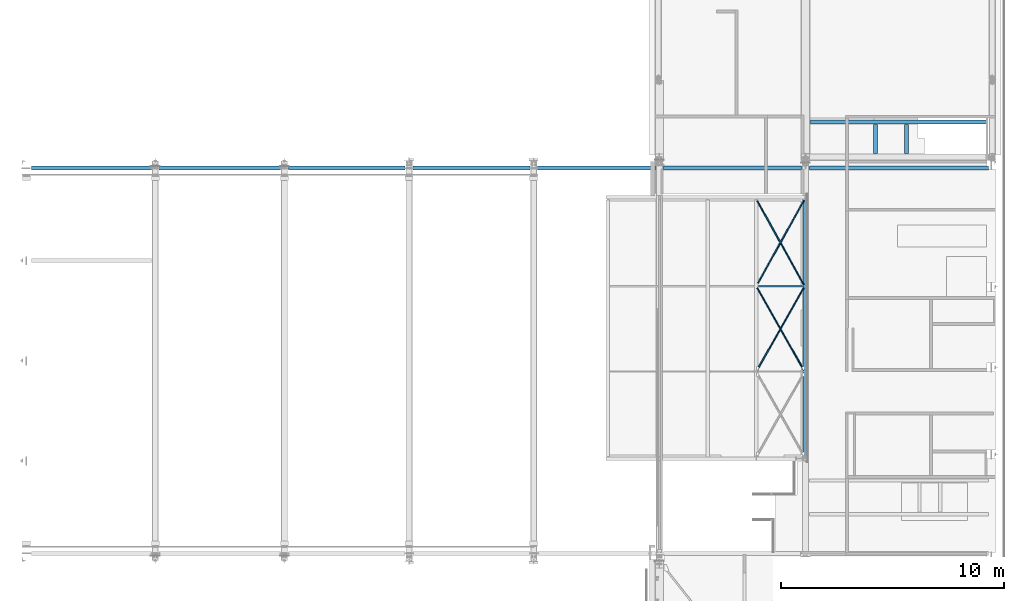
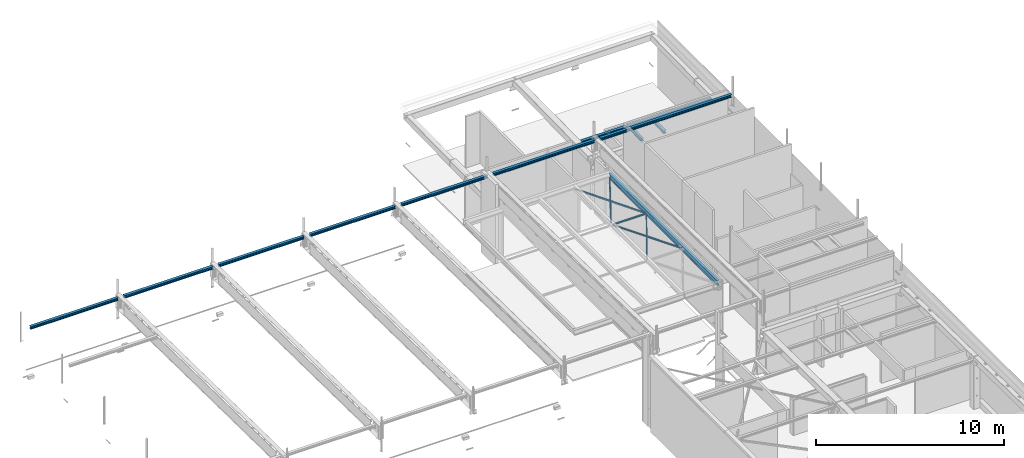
# One storey, part 7 of 186: 16 beams.
"""IFC4X3_ADD2 building model written with IfcOpenShell, lengths in millimetres."""

from ifc_helpers import new_model, si_unit, point, direction, frame, frame_2d, origin_with_axes, place, context, subcontext, project, spatial, polyline, circle_curve, trimmed, segment, composite_curve, i_section, l_section, outline, extrude, boolean, material, type_object, element, save


model = new_model("IFC4X3_ADD2")

# Units and contexts
model_context = context("Model", 3, precision=1e-05, world=origin_with_axes(), true_north=direction((0.0, 1.0)))
body_context = subcontext(model_context, "Body", "Model", "MODEL_VIEW")
ifc_project = project(units=[si_unit("LENGTHUNIT", "METRE", prefix="MILLI"), si_unit("AREAUNIT", "SQUARE_METRE"), si_unit("VOLUMEUNIT", "CUBIC_METRE"), si_unit("PLANEANGLEUNIT", "RADIAN"), si_unit("TIMEUNIT", "SECOND"), si_unit("MASSUNIT", "GRAM")], contexts=[model_context])

# Site, building, storey
site_placement = place(None, origin_with_axes())
site = spatial("IfcSite", under=ifc_project, at=site_placement, Name="Site", CompositionType="ELEMENT")
building_placement = place(site_placement, origin_with_axes())
building = spatial("IfcBuilding", under=site, at=building_placement, Name="IFC Building Story")
storey_placement = place(building_placement, frame((0.0, 0.0, 4370.0), z_axis=(0.0, 0.0, 1.0), x_axis=(1.0, 0.0, 0.0)))
storey = spatial("IfcBuildingStorey", under=building, at=storey_placement, Name="ETAGE 10 (1)", Elevation=4370.0)

# Beams
ifc_material = material(Name="BS_28_Métal")
beam_type = type_object("IfcBeamType", Name="L60x4", PredefinedType="NOTDEFINED")
beam_1_placement = place(storey_placement, frame((39881.19937621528, 12430.02188791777, 3109.999999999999), z_axis=(-0.4847265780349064, 0.8746657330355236, 0.0), x_axis=(0.0, 0.0, -1.0)))
element("IfcBeam", 1, at=beam_1_placement, inside=storey, type_object=beam_type, material=ifc_material, Name="BS_28_SF_LE_Cornière à ailes égales:L60x4", ObjectType="L60x4", context=body_context, shape_type="CSG", body=[
    boolean("UNION", boolean("DIFFERENCE", extrude(l_section(Depth=60.0, Width=60.00000000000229, Thickness=3.999999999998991, FilletRadius=8.00000000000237, EdgeRadius=3.00000000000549, LegSlope=0.0, at=frame_2d((0.0, 5.95523630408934e-12), x_axis=(1.0, 0.0))), origin_with_axes(), (0.0, 0.0, 1.0), 4291.120293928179), extrude(outline(composite_curve([segment(trimmed(circle_curve(frame_2d((-27.28571428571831, -0.428571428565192), x_axis=(1.0, 0.0)), 3.000000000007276), [point((-27.28571428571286, -3.428571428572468))], [point((-24.28571428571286, -0.428571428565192))], True, "CARTESIAN"), True, "CONTINUOUS"), segment(polyline([(-24.28571428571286, -0.428571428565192), (-24.28571428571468, 8.571428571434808)]), True, "CONTINUOUS"), segment(trimmed(circle_curve(frame_2d((-16.28571428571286, 8.571428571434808), x_axis=(1.0, 0.0)), 8.000000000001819), [point((-24.28571428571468, 8.571428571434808))], [point((-16.28571428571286, 0.571428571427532))], True, "CARTESIAN"), True, "CONTINUOUS"), segment(polyline([(-16.28571428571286, 0.571428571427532), (28.7142857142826, 0.571428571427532)]), True, "CONTINUOUS"), segment(trimmed(circle_curve(frame_2d((28.7142857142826, -2.428571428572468), x_axis=(1.0, 0.0)), 3.0), [point((28.7142857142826, 0.571428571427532))], [point((31.71428571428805, -2.428571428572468))], False, "CARTESIAN"), True, "CONTINUOUS"), segment(polyline([(31.71428571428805, -2.428571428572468), (31.71428571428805, -3.428571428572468)]), True, "CONTINUOUS"), segment(polyline([(31.71428571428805, -3.428571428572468), (-27.28571428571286, -3.428571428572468)]), True, "CONTINUOUS")], self_intersect=False)), frame((-1.714285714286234, -26.57142857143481, 0.0), z_axis=(0.0, 0.0, 1.0), x_axis=(1.0, 0.0, 0.0)), (0.0, 0.0, 1.0), 4291.120293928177)), extrude(outline(composite_curve([segment(trimmed(circle_curve(frame_2d((-27.28571428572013, 0.4285714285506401), x_axis=(1.0, 0.0)), 3.000000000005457), [point((-24.28571428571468, 0.4285714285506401))], [point((-27.28571428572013, 3.428571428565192))], True, "CARTESIAN"), True, "CONTINUOUS"), segment(polyline([(-27.28571428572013, 3.428571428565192), (31.71428571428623, 3.428571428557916)]), True, "CONTINUOUS"), segment(polyline([(31.71428571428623, 3.428571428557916), (31.71428571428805, 2.428571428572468)]), True, "CONTINUOUS"), segment(trimmed(circle_curve(frame_2d((28.7142857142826, 2.428571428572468), x_axis=(1.0, 0.0)), 3.000000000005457), [point((31.71428571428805, 2.428571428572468))], [point((28.71428571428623, -0.571428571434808))], False, "CARTESIAN"), True, "CONTINUOUS"), segment(polyline([(28.71428571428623, -0.571428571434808), (-16.28571428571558, -0.571428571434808)]), True, "CONTINUOUS"), segment(trimmed(circle_curve(frame_2d((-16.28571428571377, -8.571428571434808), x_axis=(1.0, 0.0)), 8.0), [point((-16.28571428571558, -0.571428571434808))], [point((-24.28571428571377, -8.571428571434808))], True, "CARTESIAN"), True, "CONTINUOUS"), segment(polyline([(-24.28571428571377, -8.571428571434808), (-24.28571428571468, 0.4285714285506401)]), True, "CONTINUOUS")], self_intersect=False)), frame((-1.714285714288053, 26.57142857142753, 1.818989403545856e-12), z_axis=(0.0, 0.0, 1.0), x_axis=(1.0, 0.0, 0.0)), (0.0, 0.0, 1.0), 4291.120293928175)),
])
beam_2_placement = place(storey_placement, frame((39881.48733791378, 8597.978980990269, 3164.000000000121), z_axis=(-0.4934428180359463, 0.8697782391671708, 0.0), x_axis=(0.0, 0.0, 1.0)))
element("IfcBeam", 2, at=beam_2_placement, inside=storey, type_object=beam_type, material=ifc_material, Name="BS_28_SF_LE_Cornière à ailes égales:L60x4", ObjectType="L60x4", context=body_context, shape_type="CSG", body=[
    boolean("UNION", boolean("DIFFERENCE", extrude(l_section(Depth=60.0, Width=60.00000000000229, Thickness=3.999999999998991, FilletRadius=8.00000000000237, EdgeRadius=3.00000000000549, LegSlope=0.0, at=frame_2d((0.0, 5.95523630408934e-12), x_axis=(1.0, 0.0))), origin_with_axes(), (0.0, 0.0, 1.0), 4216.461858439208), extrude(outline(composite_curve([segment(trimmed(circle_curve(frame_2d((-27.28571428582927, -0.4285714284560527), x_axis=(1.0, 0.0)), 3.0), [point((-27.28571428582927, -3.428571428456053))], [point((-24.28571428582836, -0.4285714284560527))], True, "CARTESIAN"), True, "CONTINUOUS"), segment(polyline([(-24.28571428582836, -0.4285714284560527), (-24.28571428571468, 8.571428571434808)]), True, "CONTINUOUS"), segment(trimmed(circle_curve(frame_2d((-16.28571428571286, 8.571428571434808), x_axis=(1.0, 0.0)), 8.000000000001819), [point((-24.28571428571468, 8.571428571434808))], [point((-16.28571428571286, 0.571428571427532))], True, "CARTESIAN"), True, "CONTINUOUS"), segment(polyline([(-16.28571428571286, 0.571428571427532), (28.7142857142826, 0.571428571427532)]), True, "CONTINUOUS"), segment(trimmed(circle_curve(frame_2d((28.7142857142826, -2.428571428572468), x_axis=(1.0, 0.0)), 3.0), [point((28.7142857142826, 0.571428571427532))], [point((31.71428571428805, -2.428571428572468))], False, "CARTESIAN"), True, "CONTINUOUS"), segment(polyline([(31.71428571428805, -2.428571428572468), (31.71428571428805, -3.428571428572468)]), True, "CONTINUOUS"), segment(polyline([(31.71428571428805, -3.428571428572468), (-27.28571428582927, -3.428571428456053)]), True, "CONTINUOUS")], self_intersect=False)), frame((-1.714285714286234, -26.57142857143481, 0.0), z_axis=(0.0, 0.0, 1.0), x_axis=(1.0, 0.0, 0.0)), (0.0, 0.0, 1.0), 4216.461858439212)), extrude(outline(composite_curve([segment(polyline([(-24.28571428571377, -8.571428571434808), (-24.28571428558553, 0.4285714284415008)]), True, "CONTINUOUS"), segment(trimmed(circle_curve(frame_2d((-27.28571428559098, 0.4285714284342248), x_axis=(1.0, 0.0)), 3.000000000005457), [point((-24.28571428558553, 0.4285714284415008))], [point((-27.28571428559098, 3.428571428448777))], True, "CARTESIAN"), True, "CONTINUOUS"), segment(polyline([(-27.28571428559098, 3.428571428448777), (31.71428571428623, 3.428571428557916)]), True, "CONTINUOUS"), segment(polyline([(31.71428571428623, 3.428571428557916), (31.71428571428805, 2.428571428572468)]), True, "CONTINUOUS"), segment(trimmed(circle_curve(frame_2d((28.7142857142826, 2.428571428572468), x_axis=(1.0, 0.0)), 3.000000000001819), [point((31.71428571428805, 2.428571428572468))], [point((28.71428571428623, -0.571428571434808))], False, "CARTESIAN"), True, "CONTINUOUS"), segment(polyline([(28.71428571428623, -0.571428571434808), (-16.28571428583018, -0.5714285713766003)]), True, "CONTINUOUS"), segment(trimmed(circle_curve(frame_2d((-16.28571428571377, -8.571428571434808), x_axis=(1.0, 0.0)), 8.000000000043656), [point((-16.28571428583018, -0.5714285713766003))], [point((-24.28571428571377, -8.571428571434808))], True, "CARTESIAN"), True, "CONTINUOUS")], self_intersect=False)), frame((-1.714285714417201, 26.57142857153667, -1.818989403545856e-12), z_axis=(0.0, 0.0, 1.0), x_axis=(1.0, 0.0, 0.0)), (0.0, 0.0, 1.0), 4216.461858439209)),
])
beam_3_placement = place(storey_placement, frame((37800.74800969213, 8598.060292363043, 3110.0), z_axis=(0.4934428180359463, 0.8697782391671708, 0.0), x_axis=(0.0, 0.0, -1.0)))
element("IfcBeam", 3, at=beam_3_placement, inside=storey, type_object=beam_type, material=ifc_material, Name="BS_28_SF_LE_Cornière à ailes égales:L60x4", ObjectType="L60x4", context=body_context, shape_type="CSG", body=[
    boolean("UNION", boolean("DIFFERENCE", extrude(l_section(Depth=60.0, Width=60.00000000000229, Thickness=3.999999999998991, FilletRadius=8.00000000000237, EdgeRadius=3.00000000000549, LegSlope=0.0, at=frame_2d((0.0, 5.95523630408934e-12), x_axis=(1.0, 0.0))), origin_with_axes(), (0.0, 0.0, 1.0), 4216.461857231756), extrude(outline(composite_curve([segment(polyline([(-24.28571428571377, -0.4285714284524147), (-24.28571428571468, 8.571428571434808)]), True, "CONTINUOUS"), segment(trimmed(circle_curve(frame_2d((-16.28571428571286, 8.571428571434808), x_axis=(1.0, 0.0)), 8.000000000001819), [point((-24.28571428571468, 8.571428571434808))], [point((-16.28571428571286, 0.571428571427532))], True, "CARTESIAN"), True, "CONTINUOUS"), segment(polyline([(-16.28571428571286, 0.571428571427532), (28.7142857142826, 0.571428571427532)]), True, "CONTINUOUS"), segment(trimmed(circle_curve(frame_2d((28.7142857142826, -2.428571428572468), x_axis=(1.0, 0.0)), 3.000000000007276), [point((28.7142857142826, 0.571428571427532))], [point((31.71428571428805, -2.428571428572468))], False, "CARTESIAN"), True, "CONTINUOUS"), segment(polyline([(31.71428571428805, -2.428571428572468), (31.71428571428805, -3.428571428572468)]), True, "CONTINUOUS"), segment(polyline([(31.71428571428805, -3.428571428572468), (-27.28571428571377, -3.428571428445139)]), True, "CONTINUOUS"), segment(trimmed(circle_curve(frame_2d((-27.28571428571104, -0.4285714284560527), x_axis=(1.0, 0.0)), 2.999999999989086), [point((-27.28571428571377, -3.428571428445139))], [point((-24.28571428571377, -0.4285714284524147))], True, "CARTESIAN"), True, "CONTINUOUS")], self_intersect=False)), frame((-1.714285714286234, -26.57142857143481, 0.0), z_axis=(0.0, 0.0, 1.0), x_axis=(1.0, 0.0, 0.0)), (0.0, 0.0, 1.0), 4216.461857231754)), extrude(outline(composite_curve([segment(polyline([(-24.28571428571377, -8.571428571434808), (-24.28571428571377, 0.4285714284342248)]), True, "CONTINUOUS"), segment(trimmed(circle_curve(frame_2d((-27.28571428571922, 0.4285714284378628), x_axis=(1.0, 0.0)), 3.000000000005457), [point((-24.28571428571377, 0.4285714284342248))], [point((-27.28571428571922, 3.428571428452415))], True, "CARTESIAN"), True, "CONTINUOUS"), segment(polyline([(-27.28571428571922, 3.428571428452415), (31.71428571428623, 3.428571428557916)]), True, "CONTINUOUS"), segment(polyline([(31.71428571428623, 3.428571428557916), (31.71428571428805, 2.428571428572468)]), True, "CONTINUOUS"), segment(trimmed(circle_curve(frame_2d((28.7142857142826, 2.428571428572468), x_axis=(1.0, 0.0)), 2.999999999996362), [point((31.71428571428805, 2.428571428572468))], [point((28.71428571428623, -0.571428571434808))], False, "CARTESIAN"), True, "CONTINUOUS"), segment(polyline([(28.71428571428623, -0.571428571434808), (-16.28571428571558, -0.571428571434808)]), True, "CONTINUOUS"), segment(trimmed(circle_curve(frame_2d((-16.28571428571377, -8.571428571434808), x_axis=(1.0, 0.0)), 8.000000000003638), [point((-16.28571428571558, -0.571428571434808))], [point((-24.28571428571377, -8.571428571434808))], True, "CARTESIAN"), True, "CONTINUOUS")], self_intersect=False)), frame((-1.714285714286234, 26.57142857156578, 0.0), z_axis=(0.0, 0.0, 1.0), x_axis=(1.0, 0.0, 0.0)), (0.0, 0.0, 1.0), 4216.461857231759)),
])
beam_4_placement = place(storey_placement, frame((39879.12045736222, 16179.5664565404, 3170.0), z_axis=(-0.4847265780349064, -0.8746657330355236, 0.0), x_axis=(-0.8746657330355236, 0.4847265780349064, 0.0)))
element("IfcBeam", 4, at=beam_4_placement, inside=storey, type_object=beam_type, material=ifc_material, Name="BS_28_SF_LE_Cornière à ailes égales:L60x4", ObjectType="L60x4", context=body_context, shape_type="CSG", body=[
    boolean("UNION", boolean("DIFFERENCE", extrude(l_section(Depth=60.0, Width=60.00000000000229, Thickness=3.999999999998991, FilletRadius=8.00000000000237, EdgeRadius=3.00000000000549, LegSlope=0.0, at=frame_2d((0.0, 5.95523630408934e-12), x_axis=(1.0, 0.0))), origin_with_axes(), (0.0, 0.0, 1.0), 4213.599999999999), extrude(outline(composite_curve([segment(polyline([(-24.28571428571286, -0.428571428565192), (-24.28571428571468, 8.571428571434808)]), True, "CONTINUOUS"), segment(trimmed(circle_curve(frame_2d((-16.28571428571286, 8.571428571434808), x_axis=(1.0, 0.0)), 8.000000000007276), [point((-24.28571428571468, 8.571428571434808))], [point((-16.28571428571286, 0.571428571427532))], True, "CARTESIAN"), True, "CONTINUOUS"), segment(polyline([(-16.28571428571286, 0.571428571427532), (28.7142857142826, 0.571428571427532)]), True, "CONTINUOUS"), segment(trimmed(circle_curve(frame_2d((28.7142857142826, -2.428571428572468), x_axis=(1.0, 0.0)), 3.000000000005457), [point((28.7142857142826, 0.571428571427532))], [point((31.71428571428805, -2.428571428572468))], False, "CARTESIAN"), True, "CONTINUOUS"), segment(polyline([(31.71428571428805, -2.428571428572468), (31.71428571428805, -3.428571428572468)]), True, "CONTINUOUS"), segment(polyline([(31.71428571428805, -3.428571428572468), (-27.28571428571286, -3.428571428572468)]), True, "CONTINUOUS"), segment(trimmed(circle_curve(frame_2d((-27.28571428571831, -0.428571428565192), x_axis=(1.0, 0.0)), 3.000000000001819), [point((-27.28571428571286, -3.428571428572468))], [point((-24.28571428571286, -0.428571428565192))], True, "CARTESIAN"), True, "CONTINUOUS")], self_intersect=False)), frame((-1.714285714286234, -26.57142857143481, 0.0), z_axis=(0.0, 0.0, 1.0), x_axis=(1.0, 0.0, 0.0)), (0.0, 0.0, 1.0), 4213.599999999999)), extrude(outline(composite_curve([segment(polyline([(-24.28571428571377, -8.571428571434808), (-24.28571428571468, 0.4285714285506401)]), True, "CONTINUOUS"), segment(trimmed(circle_curve(frame_2d((-27.28571428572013, 0.4285714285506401), x_axis=(1.0, 0.0)), 3.000000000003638), [point((-24.28571428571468, 0.4285714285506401))], [point((-27.28571428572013, 3.428571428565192))], True, "CARTESIAN"), True, "CONTINUOUS"), segment(polyline([(-27.28571428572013, 3.428571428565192), (31.71428571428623, 3.428571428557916)]), True, "CONTINUOUS"), segment(polyline([(31.71428571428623, 3.428571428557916), (31.71428571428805, 2.428571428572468)]), True, "CONTINUOUS"), segment(trimmed(circle_curve(frame_2d((28.7142857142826, 2.428571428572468), x_axis=(1.0, 0.0)), 3.000000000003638), [point((31.71428571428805, 2.428571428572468))], [point((28.71428571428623, -0.571428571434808))], False, "CARTESIAN"), True, "CONTINUOUS"), segment(polyline([(28.71428571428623, -0.571428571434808), (-16.28571428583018, -0.5714285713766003)]), True, "CONTINUOUS"), segment(trimmed(circle_curve(frame_2d((-16.28571428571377, -8.571428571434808), x_axis=(1.0, 0.0)), 8.0), [point((-16.28571428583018, -0.5714285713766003))], [point((-24.28571428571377, -8.571428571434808))], True, "CARTESIAN"), True, "CONTINUOUS")], self_intersect=False)), frame((-1.714285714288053, 26.57142857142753, 1.818989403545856e-12), z_axis=(0.0, 0.0, 1.0), x_axis=(1.0, 0.0, 0.0)), (0.0, 0.0, 1.0), 4213.599999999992)),
])
beam_5_placement = place(storey_placement, frame((10581.18934822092, 17656.09572868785, 4656.549435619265), z_axis=(-1.0, 0.0, 0.0), x_axis=(0.0, -0.9998873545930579, 0.01500926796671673)))
element("IfcBeam", 5, at=beam_5_placement, inside=storey, material=ifc_material, Name="BS_28_SF_LE_HE-A:HEA180", ObjectType="HEA180", context=body_context, shape_type="SweptSolid", body=[
    extrude(i_section(OverallWidth=180.0, OverallDepth=170.999999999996, WebThickness=5.999999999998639, FlangeThickness=9.50000000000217, FilletRadius=15.0000000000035, at=frame_2d((0.0, 5.95523630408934e-12), x_axis=(1.0, 0.0))), origin_with_axes(), (0.0, 0.0, 1.0), 5395.00000000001),
])
beam_6_placement = place(storey_placement, frame((16381.18884822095, 17656.09572868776, 4656.549435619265), z_axis=(-1.0, 0.0, 0.0), x_axis=(0.0, -0.9998873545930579, 0.01500926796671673)))
element("IfcBeam", 6, at=beam_6_placement, inside=storey, material=ifc_material, Name="BS_28_SF_LE_HE-A:HEA180", ObjectType="HEA180", context=body_context, shape_type="SweptSolid", body=[
    extrude(i_section(OverallWidth=180.0, OverallDepth=170.999999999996, WebThickness=5.999999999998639, FlangeThickness=9.50000000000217, FilletRadius=15.0000000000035, at=frame_2d((0.0, 5.95523630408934e-12), x_axis=(1.0, 0.0))), origin_with_axes(), (0.0, 0.0, 1.0), 5450.00000000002),
])
for number, where, z_axis, x_axis in (
    (7, (21981.18884822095, 17656.09196576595, 4656.548505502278), (-1.0, 0.0, 0.0), (0.0, -0.9998873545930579, 0.01500926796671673)),
    (8, (27581.18884821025, 17656.09196576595, 4656.548505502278), (-1.0, 0.0, 0.0), (0.0, -0.9998873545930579, 0.01500926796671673)),
):
    element("IfcBeam", number, at=place(storey_placement, frame(where, z_axis=z_axis, x_axis=x_axis)), inside=storey, material=ifc_material, Name="BS_28_SF_LE_HE-A:HEA180", ObjectType="HEA180", context=body_context, shape_type="SweptSolid", body=[
        extrude(i_section(OverallWidth=180.0, OverallDepth=170.999999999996, WebThickness=5.999999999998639, FlangeThickness=9.50000000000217, FilletRadius=15.0000000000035, at=frame_2d((0.0, 5.95523630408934e-12), x_axis=(1.0, 0.0))), origin_with_axes(), (0.0, 0.0, 1.0), 5250.000000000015),
    ])
beam_7_placement = place(storey_placement, frame((33231.18884821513, 17656.09196576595, 4656.548505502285), z_axis=(-1.0, 0.0, 0.0), x_axis=(0.0, -0.9998873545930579, 0.01500926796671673)))
element("IfcBeam", 9, at=beam_7_placement, inside=storey, material=ifc_material, Name="BS_28_SF_LE_HE-A:HEA180", ObjectType="HEA180", context=body_context, shape_type="SweptSolid", body=[
    extrude(i_section(OverallWidth=180.0, OverallDepth=170.999999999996, WebThickness=5.999999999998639, FlangeThickness=9.50000000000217, FilletRadius=15.0000000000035, at=frame_2d((0.0, 5.95523630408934e-12), x_axis=(1.0, 0.0))), origin_with_axes(), (0.0, 0.0, 1.0), 5300.000000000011),
])
beam_8_placement = place(storey_placement, frame((39791.18884821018, 17656.09206988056, 4656.548503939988), z_axis=(-1.0, 0.0, 0.0), x_axis=(0.0, -0.9998873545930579, 0.01500926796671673)))
element("IfcBeam", 10, at=beam_8_placement, inside=storey, material=ifc_material, Name="BS_28_SF_LE_HE-A:HEA180", ObjectType="HEA180", context=body_context, shape_type="SweptSolid", body=[
    extrude(i_section(OverallWidth=180.0, OverallDepth=170.999999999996, WebThickness=5.999999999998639, FlangeThickness=9.50000000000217, FilletRadius=15.0000000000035, at=frame_2d((0.0, 5.95523630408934e-12), x_axis=(1.0, 0.0))), origin_with_axes(), (0.0, 0.0, 1.0), 6210.000000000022),
])
beam_9_placement = place(storey_placement, frame((48186.18884822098, 17656.09206988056, 4656.548503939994), z_axis=(-1.0, 0.0, 0.0), x_axis=(0.0, -0.9998873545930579, 0.01500926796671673)))
element("IfcBeam", 11, at=beam_9_placement, inside=storey, material=ifc_material, Name="BS_28_SF_LE_HE-A:HEA180", ObjectType="HEA180", context=body_context, shape_type="SweptSolid", body=[
    extrude(i_section(OverallWidth=180.0, OverallDepth=170.999999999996, WebThickness=5.999999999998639, FlangeThickness=9.50000000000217, FilletRadius=15.0000000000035, at=frame_2d((0.0, 5.95523630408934e-12), x_axis=(1.0, 0.0))), origin_with_axes(), (0.0, 0.0, 1.0), 8045.000000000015),
])
beam_10_placement = place(storey_placement, frame((39926.1893482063, 4728.809479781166, 3224.999999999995), z_axis=(0.0, 1.0, 0.0), x_axis=(-1.0, 0.0, 0.0)))
element("IfcBeam", 12, at=beam_10_placement, inside=storey, material=ifc_material, Name="BS_28_SF_LE_IPE:IPE330", ObjectType="IPE330", context=body_context, shape_type="SweptSolid", body=[
    extrude(i_section(OverallWidth=159.999999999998, OverallDepth=330.000000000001, WebThickness=7.50000000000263, FlangeThickness=11.5000000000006, FilletRadius=18.0000000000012, at=frame_2d((0.0, 5.95523630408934e-12), x_axis=(1.0, 0.0))), origin_with_axes(), (0.0, 0.0, 1.0), 11485.720693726),
])
beam_11_placement = place(storey_placement, frame((48171.18934820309, 19720.17367865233, 3180.938596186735), z_axis=(-1.0, 0.0, 0.0), x_axis=(0.0, -0.9998710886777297, -0.01605633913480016)))
element("IfcBeam", 13, at=beam_11_placement, inside=storey, material=ifc_material, Name="BS_28_SF_LE_HE-A:HEA180", ObjectType="HEA180", context=body_context, shape_type="SweptSolid", body=[
    extrude(i_section(OverallWidth=180.0, OverallDepth=170.999999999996, WebThickness=5.999999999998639, FlangeThickness=9.50000000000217, FilletRadius=15.0000000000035, at=frame_2d((0.0, 5.95523630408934e-12), x_axis=(1.0, 0.0))), origin_with_axes(), (0.0, 0.0, 1.0), 7980.0),
])
beam_12_placement = place(storey_placement, frame((43121.1893482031, 19610.31073085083, 3171.180789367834), z_axis=(0.0, -0.9998720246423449, -0.01599794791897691), x_axis=(1.0, 0.0, 0.0)))
element("IfcBeam", 14, at=beam_12_placement, inside=storey, material=ifc_material, Name="BS_28_SF_LE_HE-A:HEA180", ObjectType="HEA180", context=body_context, shape_type="SweptSolid", body=[
    extrude(i_section(OverallWidth=180.0, OverallDepth=170.999999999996, WebThickness=5.999999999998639, FlangeThickness=9.50000000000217, FilletRadius=15.0000000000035, at=frame_2d((0.0, 5.95523630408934e-12), x_axis=(1.0, 0.0))), origin_with_axes(), (0.0, 0.0, 1.0), 1304.099837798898),
])
beam_13_placement = place(storey_placement, frame((44501.18934820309, 19610.18276364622, 3179.178741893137), z_axis=(0.0, -0.9998720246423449, -0.01599794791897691), x_axis=(1.0, 0.0, 0.0)))
element("IfcBeam", 15, at=beam_13_placement, inside=storey, material=ifc_material, Name="BS_28_SF_LE_HE-A:HEA180", ObjectType="HEA180", context=body_context, shape_type="SweptSolid", body=[
    extrude(i_section(OverallWidth=180.0, OverallDepth=170.999999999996, WebThickness=5.999999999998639, FlangeThickness=9.50000000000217, FilletRadius=15.0000000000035, at=frame_2d((0.0, 5.95523630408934e-12), x_axis=(1.0, 0.0))), origin_with_axes(), (0.0, 0.0, 1.0), 1304.040246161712),
])
beam_14_placement = place(storey_placement, frame((39834.18934820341, 12346.3396532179, 3109.999999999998), z_axis=(-1.0, 0.0, 0.0), x_axis=(0.0, -1.0, 0.0)))
element("IfcBeam", 16, at=beam_14_placement, inside=storey, material=ifc_material, Name="BS_28_SF_LE_IPE:IPE100", ObjectType="IPE100", context=body_context, shape_type="SweptSolid", body=[
    extrude(i_section(OverallWidth=55.000000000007, OverallDepth=100.0, WebThickness=4.09999999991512, FlangeThickness=5.70000000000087, FilletRadius=6.99999999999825, at=frame_2d((0.0, 5.95523630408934e-12), x_axis=(1.0, 0.0))), origin_with_axes(), (0.0, 0.0, 1.0), 1985.999999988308),
])

save(model, "model.ifc")
